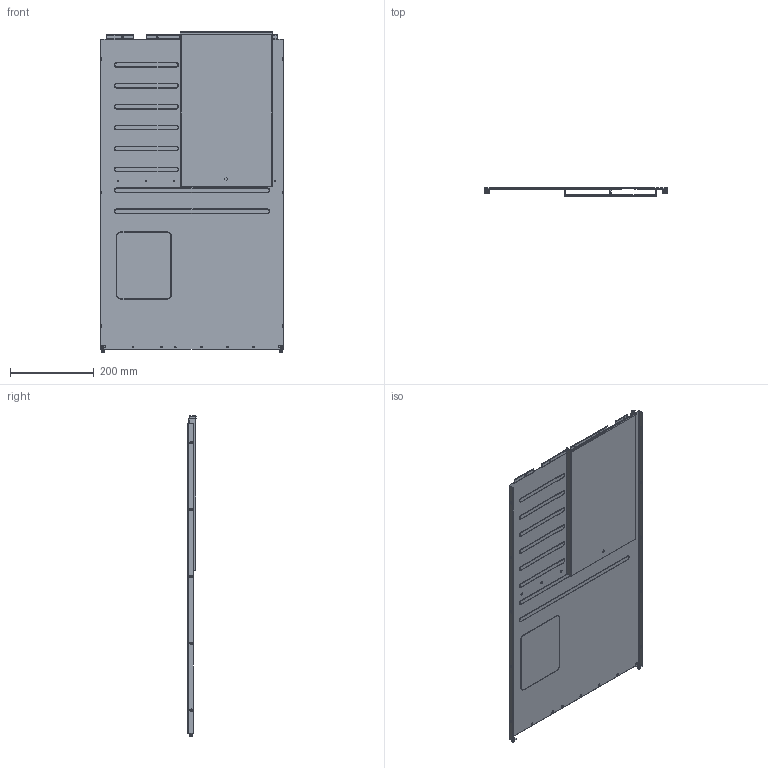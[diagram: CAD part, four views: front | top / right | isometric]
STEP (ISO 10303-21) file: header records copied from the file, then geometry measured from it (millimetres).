
FILE_DESCRIPTION((''),'2;1');
FILE_NAME('123200001194A_COVER_2U-J2_ASM','2019-06-19T',('george_hsu'),(''),'PRO/ENGINEER BY PARAMETRIC TECHNOLOGY CORPORATION, 2012480','PRO/ENGINEER BY PARAMETRIC TECHNOLOGY CORPORATION, 2012480','');
FILE_SCHEMA(('AUTOMOTIVE_DESIGN { 1 0 10303 214 1 1 1 1 }'));
Length unit declared in the file: millimetre
Products named in the file (9): COVER-2U-J2; RIVET_05-RI-5D-2P9-ZI-E; SCREW-M3-D7-H59-L53; T-RIVET; PDU-BAFFLER-BRK; PDU-COVER-BAFFLER-SPONGE; RIVET_05-RI-T2; BSO-M3X17P5; 123200001194A_COVER_2U-J2_ASM
Assembly tree (24 placements, depth 2):
  123200001194A_COVER_2U-J2_ASM
    COVER-2U-J2
    RIVET_05-RI-5D-2P9-ZI-E  x2
    SCREW-M3-D7-H59-L53  x2
    T-RIVET  x6
    PDU-BAFFLER-BRK
    PDU-COVER-BAFFLER-SPONGE
    RIVET_05-RI-T2  x10
    BSO-M3X17P5
Bounding box: 440 x 19.5 x 766.1 mm (x, y, z)
Volume: 453574.9 mm3; surface area: 912601.4 mm2
Topology: 24 solids, 24 shells, 1056 faces, 2474 edges, 1524 vertices
Faces by surface type: cylinder 442, plane 363, cone 160, torus 64, bspline 27
Entity records: 37018 total; most frequent: CARTESIAN_POINT 11263, DIRECTION 4107, ORIENTED_EDGE 3890, EDGE_CURVE 1945, PRESENTATION_STYLE_ASSIGNMENT 1766, STYLED_ITEM 1766, CURVE_STYLE 1739, AXIS2_PLACEMENT_3D 1540
